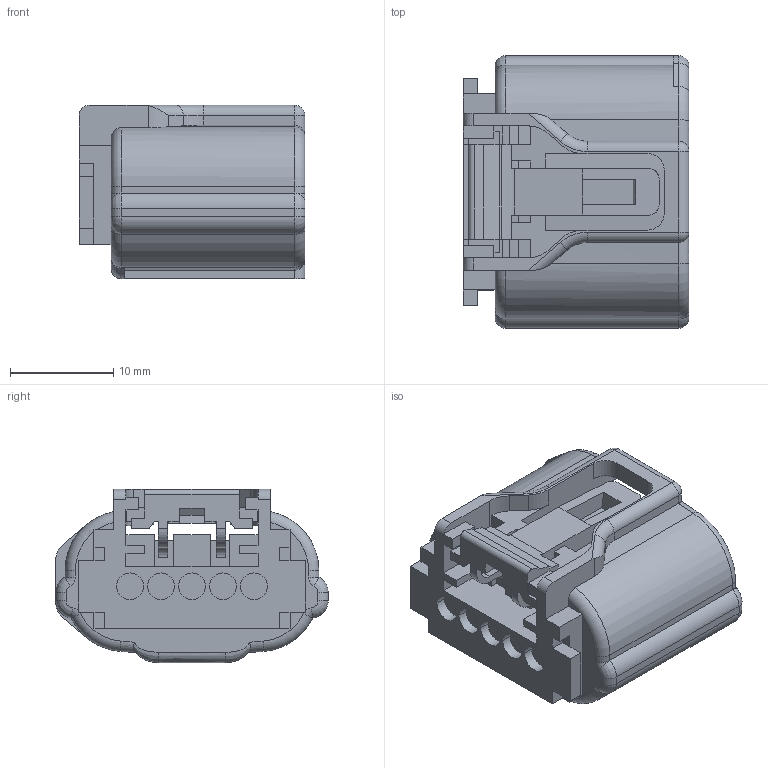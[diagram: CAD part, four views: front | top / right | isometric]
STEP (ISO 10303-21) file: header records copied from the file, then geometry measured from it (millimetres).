
FILE_DESCRIPTION(('CATIA V5 STEP Exchange'),'2;1');
FILE_NAME('N:\C-DAM_MyDesk\ENV\900093\6189-1046.stp','2013-07-18T05:23:08+00:00',('none'),('none'),'CATIA Version 5 Release 20 SP 4 (IN-10)','CATIA V5 STEP AP203','none');
FILE_SCHEMA(('CONFIG_CONTROL_DESIGN'));
Length unit declared in the file: millimetre
Products named in the file (1): 6189-1046
Bounding box: 21.9 x 26.4 x 16.8 mm (x, y, z)
Volume: 4832.1 mm3; surface area: 4603.5 mm2
Topology: 1 solids, 1 shells, 317 faces, 894 edges, 569 vertices
Faces by surface type: plane 193, cylinder 87, torus 26, revolution 6, bspline 3, sphere 2
Entity records: 9994 total; most frequent: CARTESIAN_POINT 2216, ORIENTED_EDGE 1772, DIRECTION 1309, EDGE_CURVE 886, VECTOR 614, LINE 614, VERTEX_POINT 569, AXIS2_PLACEMENT_3D 456
